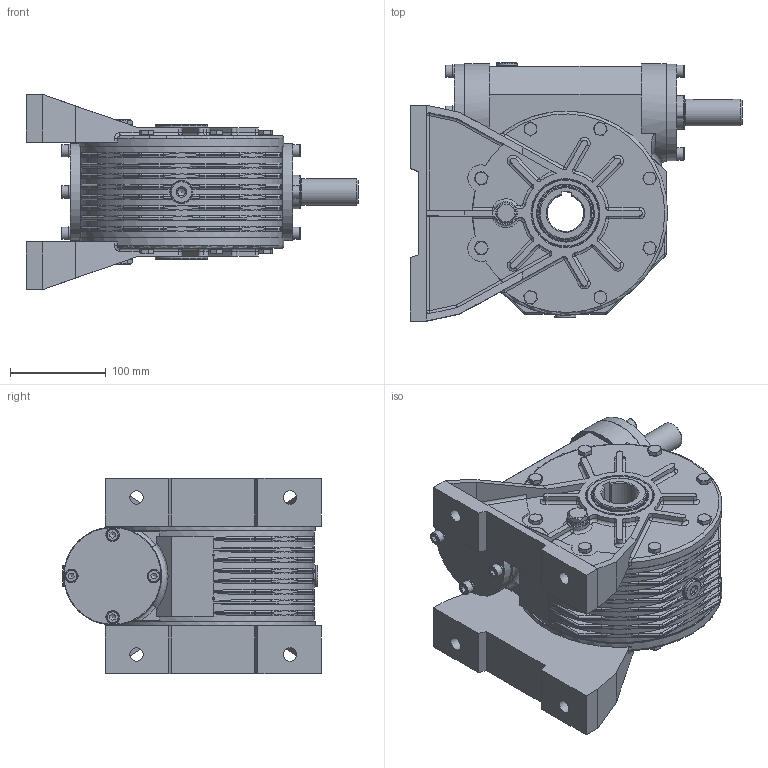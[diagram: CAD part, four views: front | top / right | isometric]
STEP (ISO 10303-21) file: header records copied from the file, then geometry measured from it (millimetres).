
FILE_DESCRIPTION((''),'2;1');
FILE_NAME('Y:\Archivi Inventor\Prog_01\GRAND_50\complessivi\Figurini\MRV50 sito\RV50\RV50_P3.stp','2013-02-11T10:44:51',('tech3'),(''),'Autodesk Inventor 2013','Autodesk Inventor 2013','');
FILE_SCHEMA(('AUTOMOTIVE_DESIGN { 1 0 10303 214 1 1 1 1 }'));
Length unit declared in the file: millimetre
Products named in the file (19): rv50_fig; mrv50_fig; Figurino_carcassa_MRV50; 0105028; 0105029; figurino_corona_MRV50; figurino_0105010; Guarnizione 3_8 GAS; Tappo 3_8 GAS_esagn_incsst; Tappo3_8 GAS; figurino_0105009; ISO 4017 M8 x 20; 55_70_8; UNI 6592 8.4 x 14; UNI 5931  M 8 x  25; 0105012; DIN EN ISO 4762 M8 x 20; fig_0105011-A0; PARAOLIO 35x47x8
Assembly tree (51 placements, depth 3):
  rv50_fig
    mrv50_fig
      Figurino_carcassa_MRV50
      0105028  x2
      0105029  x2
      figurino_corona_MRV50
      figurino_0105010  x2
      Guarnizione 3_8 GAS  x4
      Tappo 3_8 GAS_esagn_incsst  x2
      Tappo3_8 GAS  x2
      figurino_0105009
      ISO 4017 M8 x 20  x16
      55_70_8  x2
      UNI 6592 8.4 x 14  x4
      UNI 5931  M 8 x  25  x4
    0105012
    DIN EN ISO 4762 M8 x 20  x4
    fig_0105011-A0
    PARAOLIO 35x47x8
Bounding box: 346 x 269.5 x 203.7 mm (x, y, z)
Volume: 6059114.2 mm3; surface area: 797665.1 mm2
Topology: 62 solids, 64 shells, 1657 faces, 3832 edges, 2249 vertices
Faces by surface type: plane 590, cylinder 532, cone 220, torus 151, bspline 130, sphere 34
Full cylindrical faces by diameter (mm): 2 x2, 6.647 x25, 8 x26, 8.4 x4, 8.5 x48, 11.63 x16, 13 x12, 13.046 x2, 14 x8, 14.95 x4, 16.3 x4, 16.5 x2, 22 x8, 24 x2, 27.4 x1, 28 x1, 35 x1, 39.605 x1, 43.5 x1, 47 x2, 55 x1, 66.4 x2, 69 x2, 70 x5, 72 x4, 73 x2, 75 x1, 99.5 x2, 101 x2, 102 x2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
Entity records: 34024 total; most frequent: CARTESIAN_POINT 12129, DIRECTION 4576, ORIENTED_EDGE 3966, EDGE_CURVE 1983, AXIS2_PLACEMENT_3D 1936, EDGE_LOOP 1302, VERTEX_POINT 1301, CIRCLE 990
